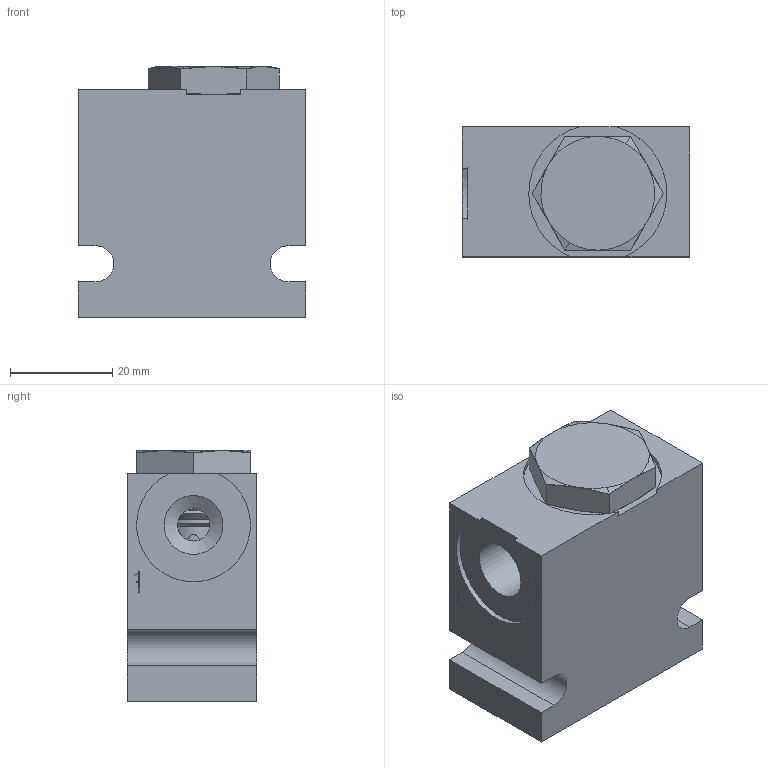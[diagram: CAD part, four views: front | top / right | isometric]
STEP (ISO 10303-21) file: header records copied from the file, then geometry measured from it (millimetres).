
FILE_DESCRIPTION( ( 'Unknown' ), '1' );
FILE_NAME( 'G:/Graphic Design/Graphic Design 2/Data Sheets/MANUAL_MECH OPERATED VALVES/4_STEP/Direct Acting Check Valves/D-MACVS00-A2.stp', 'Unknown', ( 'Unknown' ), ( 'Unknown' ), 'PSStep 16.0.42', 'Unknown', ' ' );
FILE_SCHEMA( ( 'AUTOMOTIVE_DESIGN { 1 0 10303 214 1 1 1 1 }' ) );
Length unit declared in the file: millimetre
Products named in the file (8): MACVS00; MACVS00-3D Full2; MACVS00-3D Full3; MACVS00-3D Full4; MACVS00-3D Full1; Assem1; B-DMAA2L
Assembly tree (7 placements, depth 3):
  Assem1
    B-DMAA2L
    MACVS00
      MACVS00-3D Full2
      MACVS00-3D Full3
      MACVS00-3D Full4
      MACVS00-3D Full1
      MACVS00-3D Full1
Bounding box: 44.5 x 25.4 x 49.06 mm (x, y, z)
Surface area: 14426.7 mm2 (no closed solid volume)
Topology: 0 solids, 182 shells, 182 faces, 870 edges, 847 vertices
Faces by surface type: plane 76, cylinder 52, cone 50, torus 4
Full cylindrical faces by diameter (mm): 0.2 x2, 6.3 x1, 8 x1, 9.868 x1, 11.5 x4, 12.624 x1, 12.7 x1, 14.348 x2, 16.48 x1, 22.22 x1
Entity records: 12316 total; most frequent: CARTESIAN_POINT 4917, DIRECTION 1000, VERTEX_POINT 834, ORIENTED_EDGE 832, EDGE_CURVE 832, B_SPLINE_CURVE_WITH_KNOTS 368, AXIS2_PLACEMENT_3D 345, LINE 310
